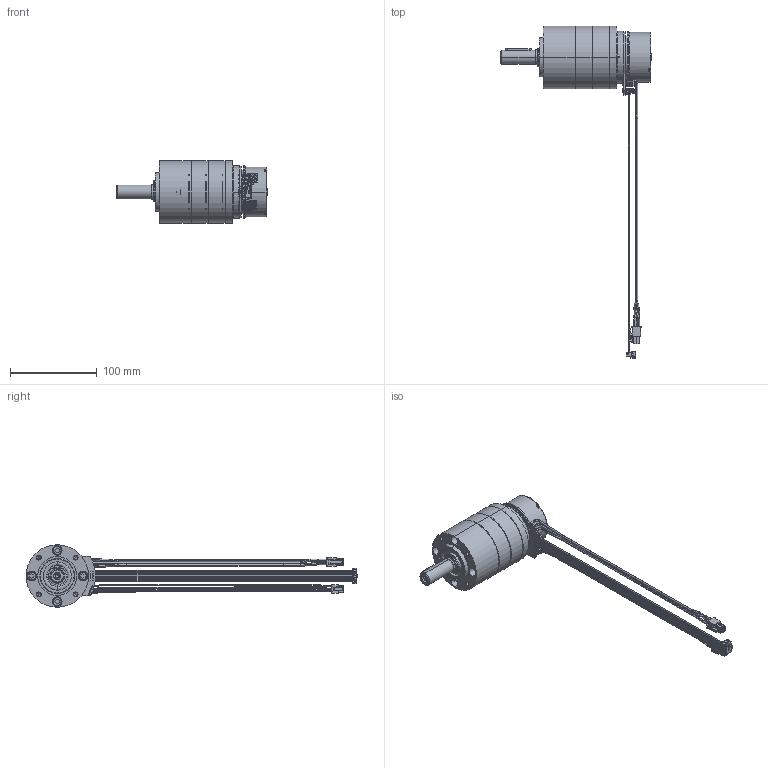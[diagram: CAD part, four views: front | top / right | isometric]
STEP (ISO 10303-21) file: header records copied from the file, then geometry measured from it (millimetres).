
FILE_DESCRIPTION (( 'STEP AP214' ), '1' );
FILE_NAME ('EC60Flat_PM72_2st.STEP', '2020-06-22T12:05:36', ( '' ), ( '' ), 'SwSTEP 2.0', 'SolidWorks 2019', '' );
FILE_SCHEMA (( 'AUTOMOTIVE_DESIGN' ));
Length unit declared in the file: millimetre
Products named in the file (4): EC60Flat_PM72_2st; EC60fl. 150W cable open + MILE; PM72-2etages; 6873599_adapt_ec60_pm72_Part
Assembly tree (3 placements, depth 2):
  EC60Flat_PM72_2st
    EC60fl. 150W cable open + MILE
    PM72-2etages
    6873599_adapt_ec60_pm72_Part
Bounding box: 173.2 x 382.24 x 72 mm (x, y, z)
Volume: 40823.4 mm3; surface area: 171995 mm2
Topology: 1 solids, 65 shells, 2826 faces, 7410 edges, 4777 vertices
Faces by surface type: plane 1556, cylinder 972, torus 209, cone 89
Entity records: 112063 total; most frequent: CARTESIAN_POINT 19107, DIRECTION 15091, ORIENTED_EDGE 14732, EDGE_CURVE 7392, AXIS2_PLACEMENT_3D 5082, LINE 4927, VECTOR 4927, VERTEX_POINT 4777
